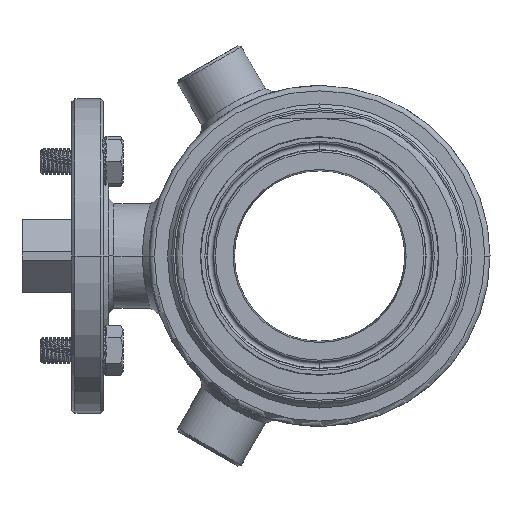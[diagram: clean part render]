
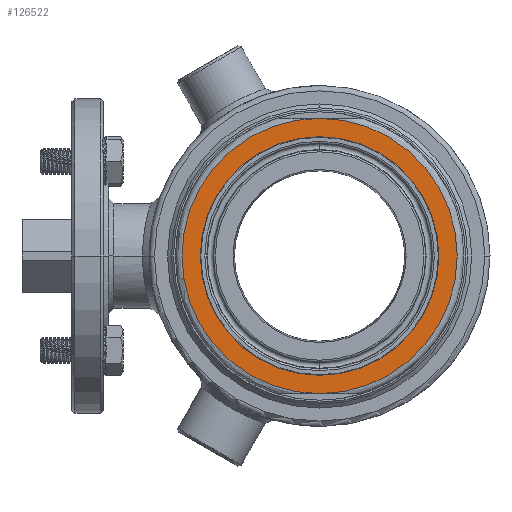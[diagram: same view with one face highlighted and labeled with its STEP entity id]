
A CAD part, left-side view. The second image highlights one B-rep face of the part: STEP entity #126522.
In plain terms, the highlighted planar face has unit normal (-1, 0, 0).
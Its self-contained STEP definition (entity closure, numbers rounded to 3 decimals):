
#27467=CARTESIAN_POINT('',(-56.,0.,0.));
#27468=DIRECTION('',(-1.,0.,0.));
#27469=DIRECTION('',(0.,-1.,0.));
#27470=AXIS2_PLACEMENT_3D('',#27467,#27468,#27469);
#27483=CARTESIAN_POINT('',(-56.,0.,0.));
#27484=DIRECTION('',(-1.,0.,0.));
#27485=DIRECTION('',(0.,0.,1.));
#27486=AXIS2_PLACEMENT_3D('',#27483,#27484,#27485);
#27498=CARTESIAN_POINT('',(-56.,0.,-52.5));
#27631=CARTESIAN_POINT('',(-56.,0.,0.));
#27632=DIRECTION('',(-1.,0.,0.));
#27633=DIRECTION('',(0.,0.,-1.));
#27634=AXIS2_PLACEMENT_3D('',#27631,#27632,#27633);
#27674=CARTESIAN_POINT('',(-56.,0.,52.5));
#27763=CARTESIAN_POINT('',(-56.,0.,0.));
#27764=DIRECTION('',(1.,0.,0.));
#27765=DIRECTION('',(0.,-1.,0.));
#27766=AXIS2_PLACEMENT_3D('',#27763,#27764,#27765);
#107729=CARTESIAN_POINT('',(-56.,-42.25,0.));
#107730=CARTESIAN_POINT('',(-56.,42.25,0.));
#107731=VERTEX_POINT('',#107729);
#107732=VERTEX_POINT('',#107730);
#107762=VERTEX_POINT('',#27674);
#107804=VERTEX_POINT('',#27498);
#126506=CARTESIAN_POINT('',(-56.,0.,0.));
#126507=DIRECTION('',(-1.,0.,0.));
#126508=DIRECTION('',(0.,1.,0.));
#126509=AXIS2_PLACEMENT_3D('',#126506,#126507,#126508);
#126510=PLANE('',#126509);
#126512=ORIENTED_EDGE('',*,*,#126511,.F.);
#126514=ORIENTED_EDGE('',*,*,#126513,.F.);
#126515=EDGE_LOOP('',(#126512,#126514));
#126516=FACE_OUTER_BOUND('',#126515,.F.);
#126518=ORIENTED_EDGE('',*,*,#126517,.F.);
#126519=ORIENTED_EDGE('',*,*,#126489,.T.);
#126520=EDGE_LOOP('',(#126518,#126519));
#126521=FACE_BOUND('',#126520,.F.);
#126522=ADVANCED_FACE('',(#126516,#126521),#126510,.T.);
#27471=CIRCLE('',#27470,42.25);
#27487=CIRCLE('',#27486,52.5);
#27635=CIRCLE('',#27634,52.5);
#27767=CIRCLE('',#27766,42.25);
#126489=EDGE_CURVE('',#107731,#107732,#27471,.T.);
#126511=EDGE_CURVE('',#107762,#107804,#27487,.T.);
#126513=EDGE_CURVE('',#107804,#107762,#27635,.T.);
#126517=EDGE_CURVE('',#107731,#107732,#27767,.T.);
